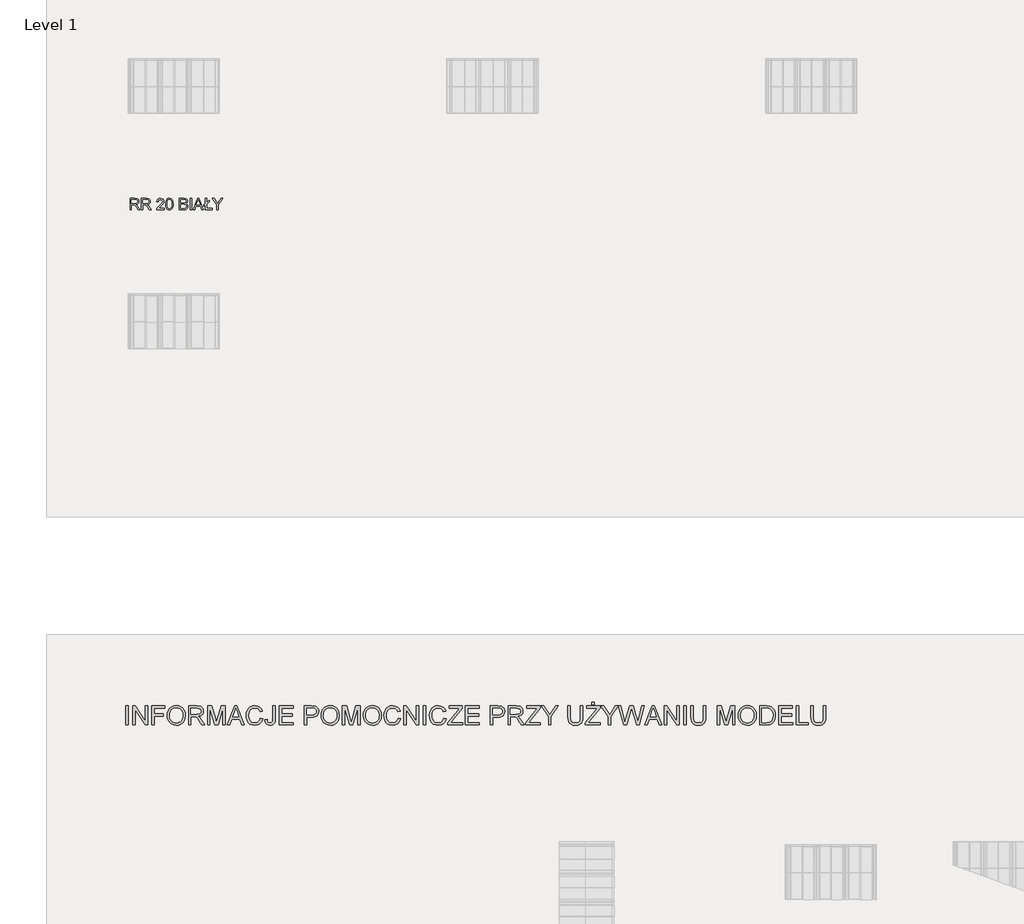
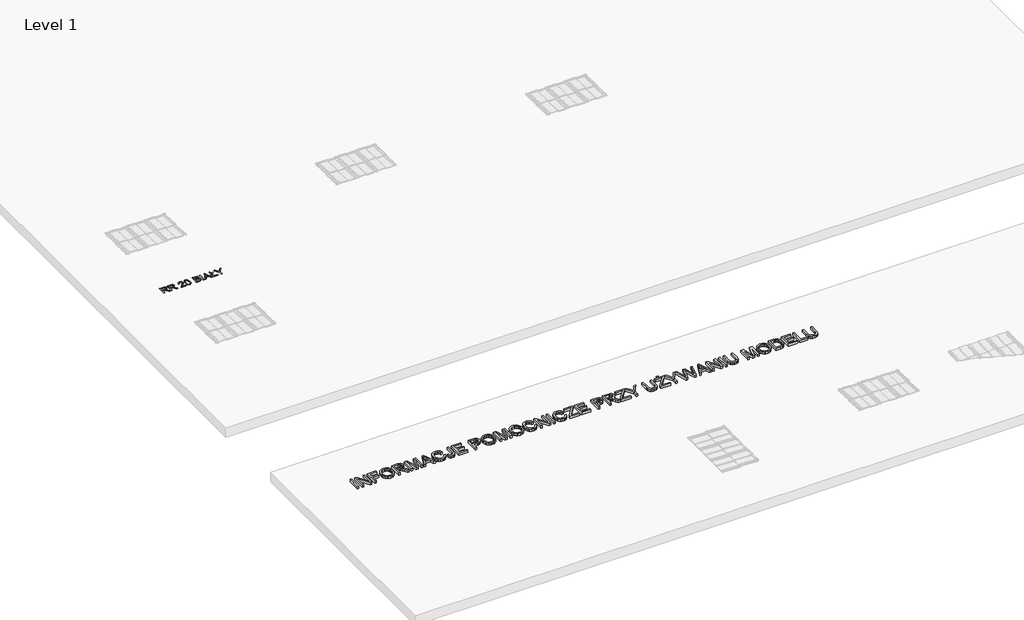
# One storey, part 3 of 9: 2 proxies.
"""IFC4 building model written with IfcOpenShell, lengths in millimetres."""

from ifc_helpers import new_model, si_unit, frame, origin, place, context, project, spatial, polyline, outline, extrude, element, save

model = new_model("IFC4")

# Units and contexts
model_context = context("Model", 3, world=origin())
ifc_project = project(units=[si_unit("LENGTHUNIT", "METRE", prefix="MILLI")], contexts=[model_context])

# Site, building, storey
site = spatial("IfcSite", under=ifc_project)
building = spatial("IfcBuilding", under=site)
storey = spatial("IfcBuildingStorey", under=building, Name="Level 1", Elevation=0.0)

# Proxies
placement = place(None, origin())
element("IfcBuildingElementProxy", 1, Name="150", ObjectType="150", at=placement, inside=storey, context=model_context, shape_type="SweptSolid", body=[
    extrude(outline(polyline([(-8736.4118342, -7835.6514112), (-8736.4118342, -7684.966946), (-8671.4806621, -7684.966946), (-8641.3327325, -7689.032042), (-8632.0529092, -7694.6606365), (-8624.8516192, -7703.416228), (-8620.2301016, -7714.2733454), (-8618.6895957, -7726.2065176), (-8621.2417771, -7741.0505561), (-8628.8983211, -7753.3562089), (-8641.8891541, -7762.3785148), (-8660.4442022, -7767.3725129), (-8649.7388361, -7775.4291286), (-8634.4717333, -7794.8165097), (-8609.3453931, -7835.6514112), (-8631.2343718, -7835.6514112), (-8650.8424821, -7804.4182298), (-8665.0059389, -7783.7432617), (-8674.9571469, -7773.9759947), (-8683.9150735, -7770.3891452), (-8694.8411687, -7769.7269577), (-8717.576276, -7769.7269577), (-8717.576276, -7835.6514112), (-8736.4118342, -7835.6514112)]), holes=[polyline([(-8717.576276, -7750.8913995), (-8675.4169994, -7750.8913995), (-8653.9142968, -7748.224255), (-8641.7006145, -7739.6893927), (-8637.5251539, -7726.9054934), (-8639.5163152, -7717.7176406), (-8645.4897991, -7710.3140154), (-8655.7675023, -7705.4303819), (-8670.6713217, -7703.8025041), (-8717.576276, -7703.8025041), (-8717.576276, -7750.8913995)])]), frame((0.0, 0.0, 600.0), z_axis=(0.0, 0.0, 1.0), x_axis=(1.0, 0.0, 0.0)), (0.0, 0.0, 1.0), 10.0),
    extrude(outline(polyline([(-8585.727369, -7835.6514112), (-8585.727369, -7684.966946), (-8520.7961968, -7684.966946), (-8490.6482673, -7689.032042), (-8481.368444, -7694.6606365), (-8474.1671539, -7703.416228), (-8469.5456364, -7714.2733454), (-8468.0051305, -7726.2065176), (-8470.5573119, -7741.0505561), (-8478.2138559, -7753.3562089), (-8491.2046888, -7762.3785148), (-8509.759737, -7767.3725129), (-8499.0543709, -7775.4291286), (-8483.7872681, -7794.8165097), (-8458.6609278, -7835.6514112), (-8480.5499066, -7835.6514112), (-8500.1580169, -7804.4182298), (-8514.3214737, -7783.7432617), (-8524.2726817, -7773.9759947), (-8533.2306083, -7770.3891452), (-8544.1567035, -7769.7269577), (-8566.8918108, -7769.7269577), (-8566.8918108, -7835.6514112), (-8585.727369, -7835.6514112)]), holes=[polyline([(-8566.8918108, -7750.8913995), (-8524.7325342, -7750.8913995), (-8503.2298316, -7748.224255), (-8491.0161493, -7739.6893927), (-8486.8406887, -7726.9054934), (-8488.83185, -7717.7176406), (-8494.8053339, -7710.3140154), (-8505.0830371, -7705.4303819), (-8519.9868564, -7703.8025041), (-8566.8918108, -7703.8025041), (-8566.8918108, -7750.8913995)])]), frame((0.0, 0.0, 600.0), z_axis=(0.0, 0.0, 1.0), x_axis=(1.0, 0.0, 0.0)), (0.0, 0.0, 1.0), 10.0),
    extrude(outline(polyline([(-8286.7128833, -7816.815853), (-8286.7128833, -7835.6514112), (-8385.5995636, -7835.6514112), (-8383.5762126, -7822.6651768), (-8372.1166885, -7802.6707903), (-8348.5170585, -7780.8369939), (-8316.0146842, -7749.4566597), (-8309.9308357, -7738.6409291), (-8307.9028862, -7728.119504), (-8309.8204711, -7718.6879293), (-8315.5732258, -7710.8474443), (-8324.4161893, -7705.5637392), (-8335.6044005, -7703.8025041), (-8347.3536317, -7705.5223524), (-8356.4817037, -7710.6818974), (-8362.3724141, -7718.8764689), (-8364.4095607, -7729.7013966), (-8383.2451188, -7727.3469518), (-8378.6787836, -7709.127596), (-8368.8057505, -7695.8194648), (-8354.1410545, -7687.6800757), (-8335.1997303, -7684.966946), (-8316.1204503, -7687.9835783), (-8301.4833454, -7697.0334754), (-8292.1713324, -7710.5531387), (-8289.0673281, -7726.9790698), (-8292.4150542, -7744.8397407), (-8303.5434846, -7763.3074168), (-8330.5276289, -7789.1143388), (-8352.1958784, -7807.2325271), (-8360.6939525, -7816.815853), (-8286.7128833, -7816.815853)])), frame((0.0, 0.0, 600.0), z_axis=(0.0, 0.0, 1.0), x_axis=(1.0, 0.0, 0.0)), (0.0, 0.0, 1.0), 10.0),
    extrude(outline(polyline([(-8267.8773251, -7761.5231892), (-8266.4931691, -7737.4039259), (-8262.3407011, -7718.168296), (-8255.4613078, -7703.5219941), (-8245.8963759, -7693.1707145), (-8233.5769276, -7687.0178881), (-8218.433985, -7684.966946), (-8196.4346417, -7689.8229883), (-8181.2411153, -7703.8208982), (-8172.4119474, -7726.1145471), (-8168.9906448, -7761.5231892), (-8170.3610053, -7785.5044967), (-8174.4720866, -7804.6941413), (-8181.3100932, -7819.3542388), (-8190.8612295, -7829.7469052), (-8203.2082689, -7835.9411183), (-8218.433985, -7838.005856), (-8238.0053071, -7834.4190065), (-8252.8677397, -7823.6584581), (-8264.1249288, -7798.1734329), (-8267.8773251, -7761.5231892)]), holes=[polyline([(-8249.041767, -7761.486401), (-8246.834475, -7791.1146971), (-8240.2125991, -7808.2625966), (-8230.3533616, -7816.4433725), (-8218.433985, -7819.1702978), (-8206.5146083, -7816.4341755), (-8196.6553709, -7808.2258084), (-8190.033495, -7791.0687119), (-8187.826203, -7761.486401), (-8189.9599186, -7732.5248909), (-8196.3610653, -7715.2436342), (-8206.2019087, -7706.6627866), (-8218.6547142, -7703.8025041), (-8230.4453321, -7706.3224958), (-8239.9182935, -7713.8824708), (-8246.7608986, -7732.2397823), (-8249.041767, -7761.486401)])]), frame((0.0, 0.0, 600.0), z_axis=(0.0, 0.0, 1.0), x_axis=(1.0, 0.0, 0.0)), (0.0, 0.0, 1.0), 10.0),
    extrude(outline(polyline([(-8086.5850779, -7835.6514112), (-8086.5850779, -7684.966946), (-8029.0851221, -7684.966946), (-8000.9237553, -7689.399924), (-7991.459991, -7695.02392), (-7984.2954892, -7703.0299519), (-7978.2806185, -7722.3069685), (-7983.338996, -7739.9101219), (-7998.6244929, -7753.2458443), (-7987.9513165, -7758.8192565), (-7980.0648462, -7767.2989365), (-7975.1950083, -7778.1238642), (-7973.571729, -7790.7330196), (-7978.004707, -7810.9849234), (-7988.9859846, -7825.4058976), (-8005.3751275, -7833.0578431), (-8029.5265805, -7835.6514112), (-8086.5850779, -7835.6514112)]), holes=[polyline([(-8067.7495198, -7746.18251), (-8033.3525532, -7746.18251), (-8013.2661963, -7744.5638292), (-8001.1812727, -7737.5924654), (-7997.1161767, -7725.3236008), (-8000.9053612, -7713.0363422), (-8011.7578801, -7705.7706728), (-8035.9645154, -7703.8025041), (-8067.7495198, -7703.8025041), (-8067.7495198, -7746.18251)]), polyline([(-8067.7495198, -7816.815853), (-8029.1219103, -7816.815853), (-8015.1423945, -7816.080089), (-8003.3149883, -7811.9782048), (-7995.4791018, -7803.6088894), (-7992.4072872, -7790.9169606), (-7996.0125307, -7776.2752572), (-8007.6927841, -7767.5380598), (-8030.9613203, -7765.0180681), (-8067.7495198, -7765.0180681), (-8067.7495198, -7816.815853)])]), frame((0.0, 0.0, 600.0), z_axis=(0.0, 0.0, 1.0), x_axis=(1.0, 0.0, 0.0)), (0.0, 0.0, 1.0), 10.0),
    extrude(outline(polyline([(-7945.3183918, -7835.6514112), (-7945.3183918, -7684.966946), (-7926.4828336, -7684.966946), (-7926.4828336, -7835.6514112), (-7945.3183918, -7835.6514112)])), frame((0.0, 0.0, 600.0), z_axis=(0.0, 0.0, 1.0), x_axis=(1.0, 0.0, 0.0)), (0.0, 0.0, 1.0), 10.0),
    extrude(outline(polyline([(-7906.3229003, -7835.6514112), (-7846.1741941, -7684.966946), (-7830.1345391, -7684.966946), (-7770.0226211, -7835.6514112), (-7789.925037, -7835.6514112), (-7807.1419144, -7788.5625158), (-7869.2403952, -7788.5625158), (-7886.4572725, -7835.6514112), (-7906.3229003, -7835.6514112)]), holes=[polyline([(-7862.3242137, -7769.7269577), (-7814.0213077, -7769.7269577), (-7827.6329415, -7732.6812407), (-7838.1911548, -7703.8025041), (-7847.5721457, -7729.4438792), (-7862.3242137, -7769.7269577)])]), frame((0.0, 0.0, 600.0), z_axis=(0.0, 0.0, 1.0), x_axis=(1.0, 0.0, 0.0)), (0.0, 0.0, 1.0), 10.0),
    extrude(outline(polyline([(-7747.5450312, -7776.0177398), (-7764.0261446, -7789.7397382), (-7764.0261446, -7770.90418), (-7747.5450312, -7757.1821816), (-7747.5450312, -7684.966946), (-7728.709473, -7684.966946), (-7728.709473, -7741.4736204), (-7693.3928015, -7712.0430608), (-7693.3928015, -7730.878619), (-7728.709473, -7760.3091786), (-7728.709473, -7816.815853), (-7653.3672404, -7816.815853), (-7653.3672404, -7835.6514112), (-7747.5450312, -7835.6514112), (-7747.5450312, -7776.0177398)])), frame((0.0, 0.0, 600.0), z_axis=(0.0, 0.0, 1.0), x_axis=(1.0, 0.0, 0.0)), (0.0, 0.0, 1.0), 10.0),
    extrude(outline(polyline([(-7592.1516764, -7835.6514112), (-7592.1516764, -7771.823885), (-7651.0127956, -7684.966946), (-7628.8295113, -7684.966946), (-7597.4123889, -7731.3568656), (-7581.3359457, -7755.048466), (-7565.1859262, -7729.6646084), (-7536.6750715, -7684.966946), (-7514.454999, -7684.966946), (-7573.3161183, -7771.823885), (-7573.3161183, -7835.6514112), (-7592.1516764, -7835.6514112)])), frame((0.0, 0.0, 600.0), z_axis=(0.0, 0.0, 1.0), x_axis=(1.0, 0.0, 0.0)), (0.0, 0.0, 1.0), 10.0),
])
element("IfcBuildingElementProxy", 2, Name="250", ObjectType="250", at=placement, inside=storey, context=model_context, shape_type="SweptSolid", body=[
    extrude(outline(polyline([(-8793.2713947, -14626.8895255), (-8793.2713947, -14375.7487501), (-8761.8787978, -14375.7487501), (-8761.8787978, -14626.8895255), (-8793.2713947, -14626.8895255)])), frame((0.0, 0.0, 600.0), z_axis=(0.0, 0.0, 1.0), x_axis=(1.0, 0.0, 0.0)), (0.0, 0.0, 1.0), 50.0),
    extrude(outline(polyline([(-8699.0936039, -14626.8895255), (-8699.0936039, -14375.7487501), (-8665.493715, -14375.7487501), (-8534.2824701, -14574.7115958), (-8534.2824701, -14375.7487501), (-8502.8898732, -14375.7487501), (-8502.8898732, -14626.8895255), (-8536.4897621, -14626.8895255), (-8667.701007, -14427.8653661), (-8667.701007, -14626.8895255), (-8699.0936039, -14626.8895255)])), frame((0.0, 0.0, 600.0), z_axis=(0.0, 0.0, 1.0), x_axis=(1.0, 0.0, 0.0)), (0.0, 0.0, 1.0), 50.0),
    extrude(outline(polyline([(-8447.9528286, -14626.8895255), (-8447.9528286, -14375.7487501), (-8279.2176201, -14375.7487501), (-8279.2176201, -14407.141347), (-8416.5602316, -14407.141347), (-8416.5602316, -14481.6987647), (-8298.8379932, -14481.6987647), (-8298.8379932, -14513.0913616), (-8416.5602316, -14513.0913616), (-8416.5602316, -14626.8895255), (-8447.9528286, -14626.8895255)])), frame((0.0, 0.0, 600.0), z_axis=(0.0, 0.0, 1.0), x_axis=(1.0, 0.0, 0.0)), (0.0, 0.0, 1.0), 50.0),
    extrude(outline(polyline([(-8247.8250232, -14504.6300758), (-8245.7326943, -14475.1726914), (-8239.4557078, -14449.0952229), (-8228.9940635, -14426.3976702), (-8214.3477616, -14407.0800334), (-8196.3943538, -14391.6558143), (-8176.011392, -14380.638515), (-8153.1988762, -14374.0281354), (-8127.9568064, -14371.8246755), (-8095.0160394, -14375.9633479), (-8065.4781809, -14388.3793653), (-8040.9527146, -14408.1990078), (-8023.0491241, -14434.5485557), (-8012.1046348, -14466.1557504), (-8008.4564716, -14501.7483335), (-8012.29624, -14537.8160974), (-8023.8155449, -14569.8678162), (-8042.3782573, -14596.2633494), (-8067.3482477, -14615.3625563), (-8096.6331874, -14626.9508392), (-8128.1407474, -14630.8136001), (-8161.5873521, -14626.5446361), (-8191.2938232, -14613.7377442), (-8215.7579759, -14593.5502197), (-8233.4776254, -14567.1393581), (-8244.2381737, -14536.7507725), (-8247.8250232, -14504.6300758)]), holes=[polyline([(-8216.4324263, -14504.9366441), (-8214.8631796, -14525.7488015), (-8210.1554397, -14544.2233755), (-8202.3092065, -14560.3603659), (-8191.3244801, -14574.1597728), (-8177.9715133, -14585.2115611), (-8163.0205591, -14593.1056956), (-8146.4716175, -14597.8421763), (-8128.3246884, -14599.4210032), (-8109.8673589, -14597.8268479), (-8093.12298, -14593.0443819), (-8078.0915516, -14585.0736054), (-8064.7730737, -14573.9145182), (-8053.8688215, -14559.8238713), (-8046.0800699, -14543.0584158), (-8041.4068189, -14523.6181517), (-8039.8490686, -14501.5030788), (-8042.516213, -14473.7126597), (-8050.5176464, -14449.6930311), (-8063.6464351, -14430.0496654), (-8081.6956455, -14415.3880351), (-8103.4696611, -14406.2599631), (-8127.7728654, -14403.2172724), (-8161.5413669, -14409.0803917), (-8190.2514909, -14426.6697496), (-8201.7056501, -14440.3561095), (-8209.8871924, -14457.9627118), (-8214.7961178, -14479.4895567), (-8216.4324263, -14504.9366441)])]), frame((0.0, 0.0, 600.0), z_axis=(0.0, 0.0, 1.0), x_axis=(1.0, 0.0, 0.0)), (0.0, 0.0, 1.0), 50.0),
    extrude(outline(polyline([(-7965.2916509, -14626.8895255), (-7965.2916509, -14375.7487501), (-7857.0730306, -14375.7487501), (-7827.9873604, -14377.4425401), (-7806.8264815, -14382.5239102), (-7791.3601092, -14391.9049011), (-7779.3579592, -14406.4975535), (-7771.6554299, -14424.5927492), (-7769.0879201, -14444.4813695), (-7773.3415557, -14469.2214337), (-7786.1024624, -14489.7308549), (-7807.7538507, -14504.7680315), (-7838.6789309, -14513.0913616), (-7820.8366541, -14526.5190545), (-7795.3914828, -14558.8313564), (-7753.514249, -14626.8895255), (-7789.9958802, -14626.8895255), (-7822.6760641, -14574.8342232), (-7846.2818254, -14540.375943), (-7862.8671721, -14524.0971647), (-7877.7970497, -14518.1190822), (-7896.0072085, -14517.0154363), (-7933.899054, -14517.0154363), (-7933.899054, -14626.8895255), (-7965.2916509, -14626.8895255)]), holes=[polyline([(-7933.899054, -14485.6228393), (-7863.6335929, -14485.6228393), (-7827.7957552, -14481.1775986), (-7816.0082029, -14475.3987856), (-7807.4396181, -14466.9528281), (-7802.2202923, -14456.7364385), (-7800.480517, -14445.6463292), (-7803.7991192, -14430.3332411), (-7813.7549257, -14417.9938659), (-7830.8844311, -14409.8544767), (-7855.72413, -14407.141347), (-7933.899054, -14407.141347), (-7933.899054, -14485.6228393)])]), frame((0.0, 0.0, 600.0), z_axis=(0.0, 0.0, 1.0), x_axis=(1.0, 0.0, 0.0)), (0.0, 0.0, 1.0), 50.0),
    extrude(outline(polyline([(-7714.1508755, -14626.8895255), (-7714.1508755, -14375.7487501), (-7660.3174769, -14375.7487501), (-7608.8139976, -14552.7613035), (-7598.3906744, -14589.733444), (-7587.1702735, -14549.6956202), (-7536.6478128, -14375.7487501), (-7482.6304732, -14375.7487501), (-7482.6304732, -14626.8895255), (-7514.0230701, -14626.8895255), (-7514.0230701, -14407.141347), (-7577.1148323, -14626.8895255), (-7619.6052027, -14626.8895255), (-7682.7582786, -14407.141347), (-7682.7582786, -14626.8895255), (-7714.1508755, -14626.8895255)])), frame((0.0, 0.0, 600.0), z_axis=(0.0, 0.0, 1.0), x_axis=(1.0, 0.0, 0.0)), (0.0, 0.0, 1.0), 50.0),
    extrude(outline(polyline([(-7456.8787335, -14626.8895255), (-7356.6308899, -14375.7487501), (-7329.8981315, -14375.7487501), (-7229.7116015, -14626.8895255), (-7262.8822948, -14626.8895255), (-7291.5770904, -14548.4080332), (-7395.0745584, -14548.4080332), (-7423.769354, -14626.8895255), (-7456.8787335, -14626.8895255)]), holes=[polyline([(-7383.5475892, -14517.0154363), (-7303.0427459, -14517.0154363), (-7325.7288023, -14455.2725747), (-7343.3258244, -14407.141347), (-7358.9608092, -14449.8769721), (-7383.5475892, -14517.0154363)])]), frame((0.0, 0.0, 600.0), z_axis=(0.0, 0.0, 1.0), x_axis=(1.0, 0.0, 0.0)), (0.0, 0.0, 1.0), 50.0),
    extrude(outline(polyline([(-7019.5896686, -14537.616828), (-6988.1970717, -14545.7102319), (-7002.6824253, -14582.2914978), (-7025.4144669, -14609.0165919), (-7055.2742221, -14625.364348), (-7091.1427167, -14630.8136001), (-7127.55537, -14626.6902561), (-7156.4724277, -14614.320224), (-7178.6373179, -14594.1326995), (-7194.7934688, -14566.5568783), (-7204.6573048, -14534.1372775), (-7207.9452501, -14499.4184142), (-7204.2281091, -14462.7988272), (-7193.0766862, -14431.1763041), (-7175.073461, -14405.5548559), (-7150.8009136, -14386.9384941), (-7122.0141474, -14375.6031302), (-7090.4682663, -14371.8246755), (-7056.0483072, -14376.7144403), (-7027.591102, -14391.3837349), (-7005.985699, -14414.9281826), (-6992.1211463, -14446.4434069), (-7023.5137432, -14453.9236741), (-7034.3969189, -14431.0306841), (-7049.2654829, -14415.3267214), (-7068.3033761, -14406.2446347), (-7091.6945397, -14403.2172724), (-7118.6572242, -14406.5741956), (-7140.806786, -14416.6449652), (-7157.6143947, -14432.3719205), (-7168.5512198, -14452.6974008), (-7174.5522949, -14475.6746971), (-7176.5526532, -14499.3571005), (-7174.1844129, -14528.3584644), (-7167.0796918, -14553.4357538), (-7154.9702428, -14573.6309425), (-7137.5878186, -14587.9860045), (-7116.7488364, -14596.5622535), (-7094.2697136, -14599.4210032), (-7068.0657857, -14595.5275854), (-7046.2304564, -14583.847332), (-7029.7447445, -14564.5028705), (-7019.5896686, -14537.616828)])), frame((0.0, 0.0, 600.0), z_axis=(0.0, 0.0, 1.0), x_axis=(1.0, 0.0, 0.0)), (0.0, 0.0, 1.0), 50.0),
    extrude(outline(polyline([(-6960.7285494, -14556.3788097), (-6929.3359525, -14552.3321078), (-6926.0709998, -14575.1561199), (-6918.6060609, -14589.4268756), (-6907.2017191, -14596.9224713), (-6892.1185573, -14599.4210032), (-6880.5226102, -14598.0031247), (-6870.6281174, -14593.7494891), (-6862.994566, -14587.0509711), (-6858.1814432, -14578.2984453), (-6854.7785348, -14547.1817599), (-6854.7785348, -14375.7487501), (-6823.3859379, -14375.7487501), (-6823.3859379, -14546.6299369), (-6825.2789973, -14574.5813043), (-6830.9581756, -14595.4049581), (-6840.7530337, -14610.6184114), (-6854.9931326, -14621.7391776), (-6872.8737304, -14628.5449945), (-6893.5900853, -14630.8136001), (-6922.6067776, -14626.1307689), (-6943.9286049, -14612.0822752), (-6956.8657884, -14588.7907464), (-6960.7285494, -14556.3788097)])), frame((0.0, 0.0, 600.0), z_axis=(0.0, 0.0, 1.0), x_axis=(1.0, 0.0, 0.0)), (0.0, 0.0, 1.0), 50.0),
    extrude(outline(polyline([(-6768.4488932, -14626.8895255), (-6768.4488932, -14375.7487501), (-6587.9414609, -14375.7487501), (-6587.9414609, -14407.141347), (-6737.0562963, -14407.141347), (-6737.0562963, -14481.6987647), (-6595.7896102, -14481.6987647), (-6595.7896102, -14513.0913616), (-6737.0562963, -14513.0913616), (-6737.0562963, -14595.4969286), (-6584.0173863, -14595.4969286), (-6584.0173863, -14626.8895255), (-6768.4488932, -14626.8895255)])), frame((0.0, 0.0, 600.0), z_axis=(0.0, 0.0, 1.0), x_axis=(1.0, 0.0, 0.0)), (0.0, 0.0, 1.0), 50.0),
    extrude(outline(polyline([(-6438.8266256, -14626.8895255), (-6438.8266256, -14375.7487501), (-6345.7524808, -14375.7487501), (-6308.2285173, -14378.1399831), (-6291.4975507, -14382.6082165), (-6277.7249685, -14389.8815501), (-6266.6348592, -14400.2895449), (-6257.9513113, -14414.1617618), (-6252.3411108, -14430.5248464), (-6250.471044, -14448.4054442), (-6255.5217573, -14478.0046164), (-6270.6738969, -14502.6680384), (-6282.8082546, -14512.3785903), (-6299.0084748, -14519.3146987), (-6319.2745574, -14523.4763638), (-6343.6065025, -14524.8635855), (-6407.4340286, -14524.8635855), (-6407.4340286, -14626.8895255), (-6438.8266256, -14626.8895255)]), holes=[polyline([(-6407.4340286, -14493.4709886), (-6341.7670925, -14493.4709886), (-6313.9306882, -14490.5892463), (-6295.5365884, -14481.9440194), (-6285.2818778, -14468.0718025), (-6281.863641, -14449.5090901), (-6283.8793277, -14435.406947), (-6289.926388, -14423.5120958), (-6299.2537294, -14414.5603006), (-6311.1102596, -14409.2873253), (-6342.5028565, -14407.141347), (-6407.4340286, -14407.141347), (-6407.4340286, -14493.4709886)])]), frame((0.0, 0.0, 600.0), z_axis=(0.0, 0.0, 1.0), x_axis=(1.0, 0.0, 0.0)), (0.0, 0.0, 1.0), 50.0),
    extrude(outline(polyline([(-6219.0784471, -14504.6300758), (-6216.9861183, -14475.1726914), (-6210.7091317, -14449.0952229), (-6200.2474875, -14426.3976702), (-6185.6011855, -14407.0800334), (-6167.6477778, -14391.6558143), (-6147.264816, -14380.638515), (-6124.4523002, -14374.0281354), (-6099.2102303, -14371.8246755), (-6066.2694634, -14375.9633479), (-6036.7316048, -14388.3793653), (-6012.2061385, -14408.1990078), (-5994.3025481, -14434.5485557), (-5983.3580587, -14466.1557504), (-5979.7098956, -14501.7483335), (-5983.5496639, -14537.8160974), (-5995.0689689, -14569.8678162), (-6013.6316812, -14596.2633494), (-6038.6016716, -14615.3625563), (-6067.8866113, -14626.9508392), (-6099.3941713, -14630.8136001), (-6132.8407761, -14626.5446361), (-6162.5472472, -14613.7377442), (-6187.0113999, -14593.5502197), (-6204.7310493, -14567.1393581), (-6215.4915977, -14536.7507725), (-6219.0784471, -14504.6300758)]), holes=[polyline([(-6187.6858502, -14504.9366441), (-6186.1166035, -14525.7488015), (-6181.4088636, -14544.2233755), (-6173.5626305, -14560.3603659), (-6162.577904, -14574.1597728), (-6149.2249372, -14585.2115611), (-6134.273983, -14593.1056956), (-6117.7250414, -14597.8421763), (-6099.5781123, -14599.4210032), (-6081.1207829, -14597.8268479), (-6064.3764039, -14593.0443819), (-6049.3449755, -14585.0736054), (-6036.0264977, -14573.9145182), (-6025.1222454, -14559.8238713), (-6017.3334938, -14543.0584158), (-6012.6602428, -14523.6181517), (-6011.1024925, -14501.5030788), (-6013.769637, -14473.7126597), (-6021.7710704, -14449.6930311), (-6034.8998591, -14430.0496654), (-6052.9490695, -14415.3880351), (-6074.723085, -14406.2599631), (-6099.0262893, -14403.2172724), (-6132.7947908, -14409.0803917), (-6161.5049149, -14426.6697496), (-6172.9590741, -14440.3561095), (-6181.1406164, -14457.9627118), (-6186.0495417, -14479.4895567), (-6187.6858502, -14504.9366441)])]), frame((0.0, 0.0, 600.0), z_axis=(0.0, 0.0, 1.0), x_axis=(1.0, 0.0, 0.0)), (0.0, 0.0, 1.0), 50.0),
    extrude(outline(polyline([(-5936.5450748, -14626.8895255), (-5936.5450748, -14375.7487501), (-5882.7116762, -14375.7487501), (-5831.2081969, -14552.7613035), (-5820.7848737, -14589.733444), (-5809.5644728, -14549.6956202), (-5759.0420121, -14375.7487501), (-5705.0246725, -14375.7487501), (-5705.0246725, -14626.8895255), (-5736.4172694, -14626.8895255), (-5736.4172694, -14407.141347), (-5799.5090316, -14626.8895255), (-5841.9994021, -14626.8895255), (-5905.1524779, -14407.141347), (-5905.1524779, -14626.8895255), (-5936.5450748, -14626.8895255)])), frame((0.0, 0.0, 600.0), z_axis=(0.0, 0.0, 1.0), x_axis=(1.0, 0.0, 0.0)), (0.0, 0.0, 1.0), 50.0),
    extrude(outline(polyline([(-5661.8598517, -14504.6300758), (-5659.7675229, -14475.1726914), (-5653.4905364, -14449.0952229), (-5643.0288921, -14426.3976702), (-5628.3825902, -14407.0800334), (-5610.4291824, -14391.6558143), (-5590.0462206, -14380.638515), (-5567.2337048, -14374.0281354), (-5541.991635, -14371.8246755), (-5509.050868, -14375.9633479), (-5479.5130095, -14388.3793653), (-5454.9875431, -14408.1990078), (-5437.0839527, -14434.5485557), (-5426.1394633, -14466.1557504), (-5422.4913002, -14501.7483335), (-5426.3310685, -14537.8160974), (-5437.8503735, -14569.8678162), (-5456.4130859, -14596.2633494), (-5481.3830763, -14615.3625563), (-5510.6680159, -14626.9508392), (-5542.175576, -14630.8136001), (-5575.6221807, -14626.5446361), (-5605.3286518, -14613.7377442), (-5629.7928045, -14593.5502197), (-5647.5124539, -14567.1393581), (-5658.2730023, -14536.7507725), (-5661.8598517, -14504.6300758)]), holes=[polyline([(-5630.4672548, -14504.9366441), (-5628.8980082, -14525.7488015), (-5624.1902683, -14544.2233755), (-5616.3440351, -14560.3603659), (-5605.3593087, -14574.1597728), (-5592.0063419, -14585.2115611), (-5577.0553876, -14593.1056956), (-5560.506446, -14597.8421763), (-5542.359517, -14599.4210032), (-5523.9021875, -14597.8268479), (-5507.1578086, -14593.0443819), (-5492.1263802, -14585.0736054), (-5478.8079023, -14573.9145182), (-5467.90365, -14559.8238713), (-5460.1148984, -14543.0584158), (-5455.4416475, -14523.6181517), (-5453.8838971, -14501.5030788), (-5456.5510416, -14473.7126597), (-5464.552475, -14449.6930311), (-5477.6812637, -14430.0496654), (-5495.7304741, -14415.3880351), (-5517.5044897, -14406.2599631), (-5541.807694, -14403.2172724), (-5575.5761955, -14409.0803917), (-5604.2863195, -14426.6697496), (-5615.7404787, -14440.3561095), (-5623.922021, -14457.9627118), (-5628.8309464, -14479.4895567), (-5630.4672548, -14504.9366441)])]), frame((0.0, 0.0, 600.0), z_axis=(0.0, 0.0, 1.0), x_axis=(1.0, 0.0, 0.0)), (0.0, 0.0, 1.0), 50.0),
    extrude(outline(polyline([(-5202.7431218, -14537.616828), (-5171.3505248, -14545.7102319), (-5185.8358784, -14582.2914978), (-5208.56792, -14609.0165919), (-5238.4276753, -14625.364348), (-5274.2961698, -14630.8136001), (-5310.7088231, -14626.6902561), (-5339.6258808, -14614.320224), (-5361.790771, -14594.1326995), (-5377.946922, -14566.5568783), (-5387.810758, -14534.1372775), (-5391.0987033, -14499.4184142), (-5387.3815623, -14462.7988272), (-5376.2301393, -14431.1763041), (-5358.2269142, -14405.5548559), (-5333.9543667, -14386.9384941), (-5305.1676006, -14375.6031302), (-5273.6217195, -14371.8246755), (-5239.2017603, -14376.7144403), (-5210.7445552, -14391.3837349), (-5189.1391522, -14414.9281826), (-5175.2745995, -14446.4434069), (-5206.6671964, -14453.9236741), (-5217.5503721, -14431.0306841), (-5232.418936, -14415.3267214), (-5251.4568293, -14406.2446347), (-5274.8479928, -14403.2172724), (-5301.8106774, -14406.5741956), (-5323.9602392, -14416.6449652), (-5340.7678478, -14432.3719205), (-5351.704673, -14452.6974008), (-5357.705748, -14475.6746971), (-5359.7061064, -14499.3571005), (-5357.337866, -14528.3584644), (-5350.233145, -14553.4357538), (-5338.123696, -14573.6309425), (-5320.7412717, -14587.9860045), (-5299.9022895, -14596.5622535), (-5277.4231668, -14599.4210032), (-5251.2192388, -14595.5275854), (-5229.3839096, -14583.847332), (-5212.8981977, -14564.5028705), (-5202.7431218, -14537.616828)])), frame((0.0, 0.0, 600.0), z_axis=(0.0, 0.0, 1.0), x_axis=(1.0, 0.0, 0.0)), (0.0, 0.0, 1.0), 50.0),
    extrude(outline(polyline([(-5128.1857041, -14626.8895255), (-5128.1857041, -14375.7487501), (-5094.5858152, -14375.7487501), (-4963.3745702, -14574.7115958), (-4963.3745702, -14375.7487501), (-4931.9819733, -14375.7487501), (-4931.9819733, -14626.8895255), (-4965.5818622, -14626.8895255), (-5096.7931072, -14427.8653661), (-5096.7931072, -14626.8895255), (-5128.1857041, -14626.8895255)])), frame((0.0, 0.0, 600.0), z_axis=(0.0, 0.0, 1.0), x_axis=(1.0, 0.0, 0.0)), (0.0, 0.0, 1.0), 50.0),
    extrude(outline(polyline([(-4873.1208541, -14626.8895255), (-4873.1208541, -14375.7487501), (-4841.7282572, -14375.7487501), (-4841.7282572, -14626.8895255), (-4873.1208541, -14626.8895255)])), frame((0.0, 0.0, 600.0), z_axis=(0.0, 0.0, 1.0), x_axis=(1.0, 0.0, 0.0)), (0.0, 0.0, 1.0), 50.0),
    extrude(outline(polyline([(-4602.3597056, -14537.616828), (-4570.9671087, -14545.7102319), (-4585.4524623, -14582.2914978), (-4608.1845039, -14609.0165919), (-4638.0442592, -14625.364348), (-4673.9127537, -14630.8136001), (-4710.325407, -14626.6902561), (-4739.2424647, -14614.320224), (-4761.4073549, -14594.1326995), (-4777.5635058, -14566.5568783), (-4787.4273418, -14534.1372775), (-4790.7152872, -14499.4184142), (-4786.9981462, -14462.7988272), (-4775.8467232, -14431.1763041), (-4757.8434981, -14405.5548559), (-4733.5709506, -14386.9384941), (-4704.7841845, -14375.6031302), (-4673.2383034, -14371.8246755), (-4638.8183442, -14376.7144403), (-4610.361139, -14391.3837349), (-4588.755736, -14414.9281826), (-4574.8911833, -14446.4434069), (-4606.2837803, -14453.9236741), (-4617.1669559, -14431.0306841), (-4632.0355199, -14415.3267214), (-4651.0734132, -14406.2446347), (-4674.4645767, -14403.2172724), (-4701.4272613, -14406.5741956), (-4723.576823, -14416.6449652), (-4740.3844317, -14432.3719205), (-4751.3212569, -14452.6974008), (-4757.3223319, -14475.6746971), (-4759.3226902, -14499.3571005), (-4756.9544499, -14528.3584644), (-4749.8497289, -14553.4357538), (-4737.7402799, -14573.6309425), (-4720.3578556, -14587.9860045), (-4699.5188734, -14596.5622535), (-4677.0397507, -14599.4210032), (-4650.8358227, -14595.5275854), (-4629.0004935, -14583.847332), (-4612.5147815, -14564.5028705), (-4602.3597056, -14537.616828)])), frame((0.0, 0.0, 600.0), z_axis=(0.0, 0.0, 1.0), x_axis=(1.0, 0.0, 0.0)), (0.0, 0.0, 1.0), 50.0),
    extrude(outline(polyline([(-4547.422661, -14626.8895255), (-4547.422661, -14594.3319689), (-4419.0318447, -14437.0011023), (-4394.6290057, -14407.141347), (-4531.7263626, -14407.141347), (-4531.7263626, -14375.7487501), (-4355.1430049, -14375.7487501), (-4355.1430049, -14407.141347), (-4495.673927, -14579.3101208), (-4508.9176789, -14595.4969286), (-4351.2189303, -14595.4969286), (-4351.2189303, -14626.8895255), (-4547.422661, -14626.8895255)])), frame((0.0, 0.0, 600.0), z_axis=(0.0, 0.0, 1.0), x_axis=(1.0, 0.0, 0.0)), (0.0, 0.0, 1.0), 50.0),
    extrude(outline(polyline([(-4315.9022587, -14626.8895255), (-4315.9022587, -14375.7487501), (-4135.3948264, -14375.7487501), (-4135.3948264, -14407.141347), (-4284.5096618, -14407.141347), (-4284.5096618, -14481.6987647), (-4143.2429757, -14481.6987647), (-4143.2429757, -14513.0913616), (-4284.5096618, -14513.0913616), (-4284.5096618, -14595.4969286), (-4131.4707518, -14595.4969286), (-4131.4707518, -14626.8895255), (-4315.9022587, -14626.8895255)])), frame((0.0, 0.0, 600.0), z_axis=(0.0, 0.0, 1.0), x_axis=(1.0, 0.0, 0.0)), (0.0, 0.0, 1.0), 50.0),
    extrude(outline(polyline([(-3986.279991, -14626.8895255), (-3986.279991, -14375.7487501), (-3893.2058463, -14375.7487501), (-3855.6818828, -14378.1399831), (-3838.9509162, -14382.6082165), (-3825.178334, -14389.8815501), (-3814.0882247, -14400.2895449), (-3805.4046768, -14414.1617618), (-3799.7944763, -14430.5248464), (-3797.9244095, -14448.4054442), (-3802.9751227, -14478.0046164), (-3818.1272624, -14502.6680384), (-3830.2616201, -14512.3785903), (-3846.4618403, -14519.3146987), (-3866.7279229, -14523.4763638), (-3891.059868, -14524.8635855), (-3954.8873941, -14524.8635855), (-3954.8873941, -14626.8895255), (-3986.279991, -14626.8895255)]), holes=[polyline([(-3954.8873941, -14493.4709886), (-3889.220458, -14493.4709886), (-3861.3840537, -14490.5892463), (-3842.9899539, -14481.9440194), (-3832.7352433, -14468.0718025), (-3829.3170064, -14449.5090901), (-3831.3326932, -14435.406947), (-3837.3797535, -14423.5120958), (-3846.7070949, -14414.5603006), (-3858.5636251, -14409.2873253), (-3889.956222, -14407.141347), (-3954.8873941, -14407.141347), (-3954.8873941, -14493.4709886)])]), frame((0.0, 0.0, 600.0), z_axis=(0.0, 0.0, 1.0), x_axis=(1.0, 0.0, 0.0)), (0.0, 0.0, 1.0), 50.0),
    extrude(outline(polyline([(-3754.7595887, -14626.8895255), (-3754.7595887, -14375.7487501), (-3646.5409685, -14375.7487501), (-3617.4552983, -14377.4425401), (-3596.2944193, -14382.5239102), (-3580.8280471, -14391.9049011), (-3568.825897, -14406.4975535), (-3561.1233677, -14424.5927492), (-3558.555858, -14444.4813695), (-3562.8094936, -14469.2214337), (-3575.5704003, -14489.7308549), (-3597.2217885, -14504.7680315), (-3628.1468687, -14513.0913616), (-3610.304592, -14526.5190545), (-3584.8594206, -14558.8313564), (-3542.9821869, -14626.8895255), (-3579.463818, -14626.8895255), (-3612.144002, -14574.8342232), (-3635.7497633, -14540.375943), (-3652.3351099, -14524.0971647), (-3667.2649876, -14518.1190822), (-3685.4751463, -14517.0154363), (-3723.3669918, -14517.0154363), (-3723.3669918, -14626.8895255), (-3754.7595887, -14626.8895255)]), holes=[polyline([(-3723.3669918, -14485.6228393), (-3653.1015307, -14485.6228393), (-3617.2636931, -14481.1775986), (-3605.4761408, -14475.3987856), (-3596.907556, -14466.9528281), (-3591.6882302, -14456.7364385), (-3589.9484549, -14445.6463292), (-3593.2670571, -14430.3332411), (-3603.2228636, -14417.9938659), (-3620.352369, -14409.8544767), (-3645.1920679, -14407.141347), (-3723.3669918, -14407.141347), (-3723.3669918, -14485.6228393)])]), frame((0.0, 0.0, 600.0), z_axis=(0.0, 0.0, 1.0), x_axis=(1.0, 0.0, 0.0)), (0.0, 0.0, 1.0), 50.0),
    extrude(outline(polyline([(-3523.2391865, -14626.8895255), (-3523.2391865, -14594.3319689), (-3394.8483701, -14437.0011023), (-3370.4455311, -14407.141347), (-3507.542888, -14407.141347), (-3507.542888, -14375.7487501), (-3330.9595303, -14375.7487501), (-3330.9595303, -14407.141347), (-3471.4904525, -14579.3101208), (-3484.7342043, -14595.4969286), (-3327.0354557, -14595.4969286), (-3327.0354557, -14626.8895255), (-3523.2391865, -14626.8895255)])), frame((0.0, 0.0, 600.0), z_axis=(0.0, 0.0, 1.0), x_axis=(1.0, 0.0, 0.0)), (0.0, 0.0, 1.0), 50.0),
    extrude(outline(polyline([(-3221.0854411, -14626.8895255), (-3221.0854411, -14520.5103152), (-3319.1873065, -14375.7487501), (-3282.2151659, -14375.7487501), (-3229.8532953, -14453.0652828), (-3203.0592233, -14492.5512836), (-3176.142524, -14450.2448541), (-3128.624433, -14375.7487501), (-3091.5909788, -14375.7487501), (-3189.6928442, -14520.5103152), (-3189.6928442, -14626.8895255), (-3221.0854411, -14626.8895255)])), frame((0.0, 0.0, 600.0), z_axis=(0.0, 0.0, 1.0), x_axis=(1.0, 0.0, 0.0)), (0.0, 0.0, 1.0), 50.0),
    extrude(outline(polyline([(-2801.2094573, -14375.7487501), (-2769.8168603, -14375.7487501), (-2769.8168603, -14520.6329425), (-2771.9475102, -14554.5623924), (-2778.3394599, -14580.6896783), (-2790.2802963, -14600.8465459), (-2809.0576065, -14616.8647411), (-2834.7173756, -14627.3263854), (-2867.3055891, -14630.8136001), (-2899.1810311, -14627.7785736), (-2924.6645235, -14618.6734943), (-2943.7637304, -14603.8125945), (-2956.486316, -14583.5101069), (-2963.6370223, -14556.279175), (-2966.0205911, -14520.6329425), (-2966.0205911, -14375.7487501), (-2934.6279942, -14375.7487501), (-2934.6279942, -14519.5292966), (-2933.0798241, -14547.7412471), (-2928.4353139, -14567.3846128), (-2920.0200133, -14580.9885824), (-2907.1594719, -14591.0823446), (-2890.3901842, -14597.3363385), (-2870.248645, -14599.4210032), (-2838.3195535, -14595.2976591), (-2817.0896967, -14582.9276271), (-2810.1420919, -14572.7802154), (-2805.1795171, -14558.8313564), (-2801.2094573, -14519.5292966), (-2801.2094573, -14375.7487501)])), frame((0.0, 0.0, 600.0), z_axis=(0.0, 0.0, 1.0), x_axis=(1.0, 0.0, 0.0)), (0.0, 0.0, 1.0), 50.0),
    extrude(outline(polyline([(-2734.5001888, -14626.8895255), (-2734.5001888, -14594.3319689), (-2606.1093725, -14437.0011023), (-2581.7065335, -14407.141347), (-2718.8038903, -14407.141347), (-2718.8038903, -14375.7487501), (-2542.2205326, -14375.7487501), (-2542.2205326, -14407.141347), (-2682.7514548, -14579.3101208), (-2695.9952066, -14595.4969286), (-2538.296458, -14595.4969286), (-2538.296458, -14626.8895255), (-2734.5001888, -14626.8895255)])), frame((0.0, 0.0, 600.0), z_axis=(0.0, 0.0, 1.0), x_axis=(1.0, 0.0, 0.0)), (0.0, 0.0, 1.0), 50.0),
    extrude(outline(polyline([(-2648.1705473, -14360.0524516), (-2648.1705473, -14328.6598547), (-2616.7779503, -14328.6598547), (-2616.7779503, -14360.0524516), (-2648.1705473, -14360.0524516)])), frame((0.0, 0.0, 600.0), z_axis=(0.0, 0.0, 1.0), x_axis=(1.0, 0.0, 0.0)), (0.0, 0.0, 1.0), 50.0),
    extrude(outline(polyline([(-2432.3464434, -14626.8895255), (-2432.3464434, -14520.5103152), (-2530.4483088, -14375.7487501), (-2493.4761683, -14375.7487501), (-2441.1142976, -14453.0652828), (-2414.3202257, -14492.5512836), (-2387.4035263, -14450.2448541), (-2339.8854353, -14375.7487501), (-2302.8519811, -14375.7487501), (-2400.9538465, -14520.5103152), (-2400.9538465, -14626.8895255), (-2432.3464434, -14626.8895255)])), frame((0.0, 0.0, 600.0), z_axis=(0.0, 0.0, 1.0), x_axis=(1.0, 0.0, 0.0)), (0.0, 0.0, 1.0), 50.0),
    extrude(outline(polyline([(-2230.4405417, -14626.8895255), (-2298.9279065, -14375.7487501), (-2266.5542909, -14375.7487501), (-2226.8230354, -14540.8051386), (-2214.5603023, -14591.7567949), (-2201.4391778, -14546.6912505), (-2151.6524811, -14375.7487501), (-2104.9927814, -14375.7487501), (-2068.8177185, -14499.6636688), (-2053.3206895, -14545.6489182), (-2041.9010192, -14591.7567949), (-2030.006168, -14542.2766666), (-1989.9683442, -14375.7487501), (-1957.533415, -14375.7487501), (-2025.9594661, -14626.8895255), (-2059.559355, -14626.8895255), (-2119.8306885, -14433.1383414), (-2128.2306607, -14406.0990147), (-2137.6729653, -14438.6565713), (-2192.5486962, -14626.8895255), (-2230.4405417, -14626.8895255)])), frame((0.0, 0.0, 600.0), z_axis=(0.0, 0.0, 1.0), x_axis=(1.0, 0.0, 0.0)), (0.0, 0.0, 1.0), 50.0),
    extrude(outline(polyline([(-1955.326123, -14626.8895255), (-1855.0782793, -14375.7487501), (-1828.345521, -14375.7487501), (-1728.158991, -14626.8895255), (-1761.3296842, -14626.8895255), (-1790.0244798, -14548.4080332), (-1893.5219478, -14548.4080332), (-1922.2167434, -14626.8895255), (-1955.326123, -14626.8895255)]), holes=[polyline([(-1881.9949786, -14517.0154363), (-1801.4901354, -14517.0154363), (-1824.1761917, -14455.2725747), (-1841.7732138, -14407.141347), (-1857.4081986, -14449.8769721), (-1881.9949786, -14517.0154363)])]), frame((0.0, 0.0, 600.0), z_axis=(0.0, 0.0, 1.0), x_axis=(1.0, 0.0, 0.0)), (0.0, 0.0, 1.0), 50.0),
    extrude(outline(polyline([(-1694.6204158, -14626.8895255), (-1694.6204158, -14375.7487501), (-1661.0205269, -14375.7487501), (-1529.8092819, -14574.7115958), (-1529.8092819, -14375.7487501), (-1498.416685, -14375.7487501), (-1498.416685, -14626.8895255), (-1532.0165739, -14626.8895255), (-1663.2278188, -14427.8653661), (-1663.2278188, -14626.8895255), (-1694.6204158, -14626.8895255)])), frame((0.0, 0.0, 600.0), z_axis=(0.0, 0.0, 1.0), x_axis=(1.0, 0.0, 0.0)), (0.0, 0.0, 1.0), 50.0),
    extrude(outline(polyline([(-1439.5555658, -14626.8895255), (-1439.5555658, -14375.7487501), (-1408.1629688, -14375.7487501), (-1408.1629688, -14626.8895255), (-1439.5555658, -14626.8895255)])), frame((0.0, 0.0, 600.0), z_axis=(0.0, 0.0, 1.0), x_axis=(1.0, 0.0, 0.0)), (0.0, 0.0, 1.0), 50.0),
    extrude(outline(polyline([(-1180.5666412, -14375.7487501), (-1149.1740442, -14375.7487501), (-1149.1740442, -14520.6329425), (-1151.3046941, -14554.5623924), (-1157.6966438, -14580.6896783), (-1169.6374802, -14600.8465459), (-1188.4147904, -14616.8647411), (-1214.0745596, -14627.3263854), (-1246.662773, -14630.8136001), (-1278.538215, -14627.7785736), (-1304.0217074, -14618.6734943), (-1323.1209143, -14603.8125945), (-1335.8435, -14583.5101069), (-1342.9942062, -14556.279175), (-1345.377775, -14520.6329425), (-1345.377775, -14375.7487501), (-1313.9851781, -14375.7487501), (-1313.9851781, -14519.5292966), (-1312.437008, -14547.7412471), (-1307.7924978, -14567.3846128), (-1299.3771972, -14580.9885824), (-1286.5166558, -14591.0823446), (-1269.7473682, -14597.3363385), (-1249.6058289, -14599.4210032), (-1217.6767374, -14595.2976591), (-1196.4468806, -14582.9276271), (-1189.4992759, -14572.7802154), (-1184.536701, -14558.8313564), (-1180.5666412, -14519.5292966), (-1180.5666412, -14375.7487501)])), frame((0.0, 0.0, 600.0), z_axis=(0.0, 0.0, 1.0), x_axis=(1.0, 0.0, 0.0)), (0.0, 0.0, 1.0), 50.0),
    extrude(outline(polyline([(-996.1351343, -14626.8895255), (-996.1351343, -14375.7487501), (-942.3017356, -14375.7487501), (-890.7982563, -14552.7613035), (-880.3749331, -14589.733444), (-869.1545322, -14549.6956202), (-818.6320716, -14375.7487501), (-764.614732, -14375.7487501), (-764.614732, -14626.8895255), (-796.0073289, -14626.8895255), (-796.0073289, -14407.141347), (-859.099091, -14626.8895255), (-901.5894615, -14626.8895255), (-964.7425373, -14407.141347), (-964.7425373, -14626.8895255), (-996.1351343, -14626.8895255)])), frame((0.0, 0.0, 600.0), z_axis=(0.0, 0.0, 1.0), x_axis=(1.0, 0.0, 0.0)), (0.0, 0.0, 1.0), 50.0),
    extrude(outline(polyline([(-721.4499112, -14504.6300758), (-719.3575823, -14475.1726914), (-713.0805958, -14449.0952229), (-702.6189516, -14426.3976702), (-687.9726496, -14407.0800334), (-670.0192418, -14391.6558143), (-649.63628, -14380.638515), (-626.8237642, -14374.0281354), (-601.5816944, -14371.8246755), (-568.6409274, -14375.9633479), (-539.1030689, -14388.3793653), (-514.5776026, -14408.1990078), (-496.6740121, -14434.5485557), (-485.7295228, -14466.1557504), (-482.0813597, -14501.7483335), (-485.921128, -14537.8160974), (-497.440433, -14569.8678162), (-516.0031453, -14596.2633494), (-540.9731357, -14615.3625563), (-570.2580754, -14626.9508392), (-601.7656354, -14630.8136001), (-635.2122401, -14626.5446361), (-664.9187113, -14613.7377442), (-689.3828639, -14593.5502197), (-707.1025134, -14567.1393581), (-717.8630617, -14536.7507725), (-721.4499112, -14504.6300758)]), holes=[polyline([(-690.0573143, -14504.9366441), (-688.4880676, -14525.7488015), (-683.7803277, -14544.2233755), (-675.9340945, -14560.3603659), (-664.9493681, -14574.1597728), (-651.5964013, -14585.2115611), (-636.6454471, -14593.1056956), (-620.0965055, -14597.8421763), (-601.9495764, -14599.4210032), (-583.4922469, -14597.8268479), (-566.747868, -14593.0443819), (-551.7164396, -14585.0736054), (-538.3979618, -14573.9145182), (-527.4937095, -14559.8238713), (-519.7049579, -14543.0584158), (-515.0317069, -14523.6181517), (-513.4739566, -14501.5030788), (-516.141101, -14473.7126597), (-524.1425344, -14449.6930311), (-537.2713231, -14430.0496654), (-555.3205335, -14415.3880351), (-577.0945491, -14406.2599631), (-601.3977534, -14403.2172724), (-635.1662549, -14409.0803917), (-663.8763789, -14426.6697496), (-675.3305381, -14440.3561095), (-683.5120804, -14457.9627118), (-688.4210058, -14479.4895567), (-690.0573143, -14504.9366441)])]), frame((0.0, 0.0, 600.0), z_axis=(0.0, 0.0, 1.0), x_axis=(1.0, 0.0, 0.0)), (0.0, 0.0, 1.0), 50.0),
    extrude(outline(polyline([(-438.9165389, -14626.8895255), (-438.9165389, -14375.7487501), (-352.280329, -14375.7487501), (-307.4600393, -14379.3662564), (-287.4411274, -14386.3406859), (-270.5492124, -14397.3311605), (-253.1821166, -14416.4610242), (-240.8120845, -14440.2507266), (-233.4084593, -14468.2404151), (-230.9405843, -14499.9702371), (-232.6113817, -14526.9252575), (-237.6237739, -14550.645982), (-245.2573253, -14570.8411707), (-254.7916003, -14587.2195837), (-277.7229113, -14609.9976105), (-307.7359508, -14622.5975689), (-348.1109997, -14626.8895255), (-438.9165389, -14626.8895255)]), holes=[polyline([(-407.523942, -14595.4969286), (-351.9737607, -14595.4969286), (-311.5680549, -14590.9597173), (-288.2688619, -14578.1451611), (-277.3626935, -14564.5565199), (-269.1696549, -14546.967162), (-264.0422996, -14525.3004454), (-262.3331812, -14499.4797278), (-265.6824402, -14465.2667023), (-275.7302172, -14440.0054719), (-290.5757885, -14422.6537045), (-308.3184306, -14412.1690676), (-326.3753052, -14408.3982772), (-352.832152, -14407.141347), (-407.523942, -14407.141347), (-407.523942, -14595.4969286)])]), frame((0.0, 0.0, 600.0), z_axis=(0.0, 0.0, 1.0), x_axis=(1.0, 0.0, 0.0)), (0.0, 0.0, 1.0), 50.0),
    extrude(outline(polyline([(-187.7757635, -14626.8895255), (-187.7757635, -14375.7487501), (-7.2683312, -14375.7487501), (-7.2683312, -14407.141347), (-156.3831666, -14407.141347), (-156.3831666, -14481.6987647), (-15.1164804, -14481.6987647), (-15.1164804, -14513.0913616), (-156.3831666, -14513.0913616), (-156.3831666, -14595.4969286), (-3.3442566, -14595.4969286), (-3.3442566, -14626.8895255), (-187.7757635, -14626.8895255)])), frame((0.0, 0.0, 600.0), z_axis=(0.0, 0.0, 1.0), x_axis=(1.0, 0.0, 0.0)), (0.0, 0.0, 1.0), 50.0),
    extrude(outline(polyline([(43.7446388, -14626.8895255), (43.7446388, -14375.7487501), (75.1372357, -14375.7487501), (75.1372357, -14595.4969286), (200.7076234, -14595.4969286), (200.7076234, -14626.8895255), (43.7446388, -14626.8895255)])), frame((0.0, 0.0, 600.0), z_axis=(0.0, 0.0, 1.0), x_axis=(1.0, 0.0, 0.0)), (0.0, 0.0, 1.0), 50.0),
    extrude(outline(polyline([(400.8354288, -14375.7487501), (432.2280257, -14375.7487501), (432.2280257, -14520.6329425), (430.0973758, -14554.5623924), (423.7054261, -14580.6896783), (411.7645897, -14600.8465459), (392.9872795, -14616.8647411), (367.3275104, -14627.3263854), (334.739297, -14630.8136001), (302.8638549, -14627.7785736), (277.3803626, -14618.6734943), (258.2811556, -14603.8125945), (245.55857, -14583.5101069), (238.4078637, -14556.279175), (236.0242949, -14520.6329425), (236.0242949, -14375.7487501), (267.4168919, -14375.7487501), (267.4168919, -14519.5292966), (268.9650619, -14547.7412471), (273.6095721, -14567.3846128), (282.0248727, -14580.9885824), (294.8854142, -14591.0823446), (311.6547018, -14597.3363385), (331.796241, -14599.4210032), (363.7253325, -14595.2976591), (384.9551893, -14582.9276271), (391.9027941, -14572.7802154), (396.8653689, -14558.8313564), (400.8354288, -14519.5292966), (400.8354288, -14375.7487501)])), frame((0.0, 0.0, 600.0), z_axis=(0.0, 0.0, 1.0), x_axis=(1.0, 0.0, 0.0)), (0.0, 0.0, 1.0), 50.0),
])

save(model, "model.ifc")
